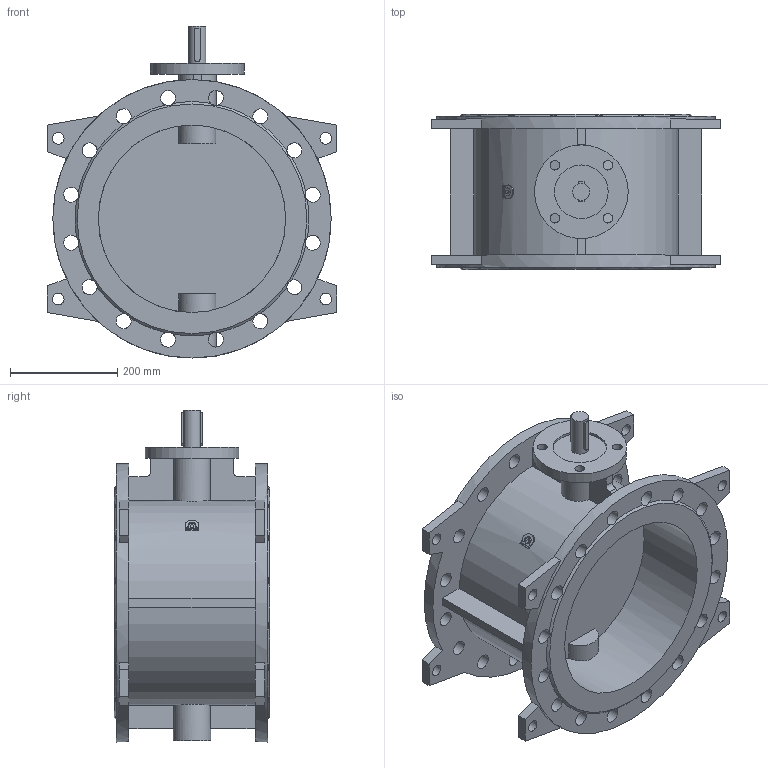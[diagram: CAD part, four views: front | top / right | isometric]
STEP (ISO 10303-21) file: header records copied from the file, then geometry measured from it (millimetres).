
FILE_DESCRIPTION(('STEP AP203'), '1');
FILE_NAME('Çàòâîð 023F.Z DN350 PN16 ïîä èñïîëíèòåëüíûé ìåõàíèçì', '', ('UNSPECIFIED'), ('UNSPECIFIED'), 'ASCON STEP Converter 1.6', 'ASCON Math Kernel', '');
FILE_SCHEMA(('CONFIG_CONTROL_DESIGN'));
Length unit declared in the file: millimetre
Bounding box: 540 x 290 x 620 mm (x, y, z)
Volume: 15765904.5 mm3; surface area: 1526704.1 mm2
Topology: 1 solids, 1 shells, 158 faces, 525 edges, 350 vertices
Faces by surface type: plane 85, cylinder 71, cone 2
Full cylindrical faces by diameter (mm): 18 x4, 22 x8, 28 x32, 32 x1, 70 x1, 100 x1, 175 x1, 350 x2, 520 x2
Entity records: 10826 total; most frequent: CARTESIAN_POINT 4874, DIRECTION 958, ORIENTED_EDGE 940, EDGE_CURVE 470, AXIS2_PLACEMENT_3D 380, VERTEX_POINT 350, EDGE_LOOP 282, CIRCLE 221
